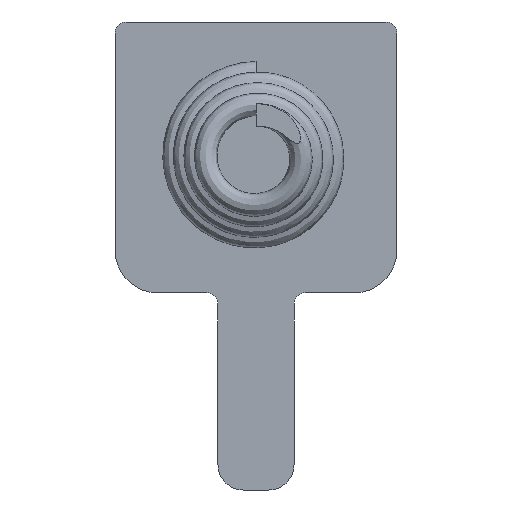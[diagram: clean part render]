
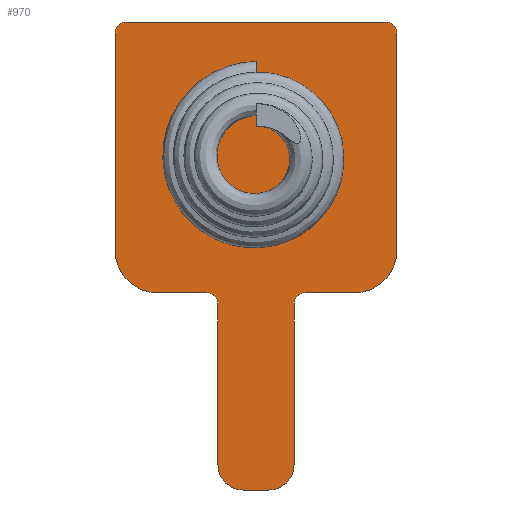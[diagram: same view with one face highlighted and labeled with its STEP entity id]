
A CAD part, front view. The second image highlights one B-rep face of the part: STEP entity #970.
In plain terms, the highlighted planar face has unit normal (0, -1, 0).
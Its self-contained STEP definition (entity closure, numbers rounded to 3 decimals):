
#321=CARTESIAN_POINT('',(-4.6,0.,4.4));
#322=DIRECTION('',(0.,-1.,0.));
#323=DIRECTION('',(0.,0.,1.));
#324=AXIS2_PLACEMENT_3D('',#321,#322,#323);
#326=DIRECTION('',(1.,0.,0.));
#327=VECTOR('',#326,9.2);
#328=CARTESIAN_POINT('',(-4.6,0.,4.8));
#329=LINE('',#328,#327);
#330=CARTESIAN_POINT('',(4.6,0.,4.4));
#331=DIRECTION('',(0.,-1.,0.));
#332=DIRECTION('',(1.,0.,0.));
#333=AXIS2_PLACEMENT_3D('',#330,#331,#332);
#335=DIRECTION('',(0.,0.,-1.));
#336=VECTOR('',#335,7.7);
#337=CARTESIAN_POINT('',(5.,0.,4.4));
#338=LINE('',#337,#336);
#339=CARTESIAN_POINT('',(3.5,0.,-3.3));
#340=DIRECTION('',(0.,-1.,0.));
#341=DIRECTION('',(0.,0.,-1.));
#342=AXIS2_PLACEMENT_3D('',#339,#340,#341);
#344=DIRECTION('',(-1.,0.,0.));
#345=VECTOR('',#344,1.75);
#346=CARTESIAN_POINT('',(3.5,0.,-4.8));
#347=LINE('',#346,#345);
#348=DIRECTION('',(0.,0.,-1.));
#349=VECTOR('',#348,5.7);
#350=CARTESIAN_POINT('',(1.35,0.,-5.2));
#351=LINE('',#350,#349);
#352=CARTESIAN_POINT('',(0.45,0.,-10.9));
#353=DIRECTION('',(0.,-1.,0.));
#354=DIRECTION('',(0.,0.,-1.));
#355=AXIS2_PLACEMENT_3D('',#352,#353,#354);
#357=DIRECTION('',(-1.,0.,0.));
#358=VECTOR('',#357,0.9);
#359=CARTESIAN_POINT('',(0.45,0.,-11.8));
#360=LINE('',#359,#358);
#361=CARTESIAN_POINT('',(-0.45,0.,-10.9));
#362=DIRECTION('',(0.,-1.,0.));
#363=DIRECTION('',(-1.,0.,0.));
#364=AXIS2_PLACEMENT_3D('',#361,#362,#363);
#366=DIRECTION('',(0.,0.,1.));
#367=VECTOR('',#366,5.7);
#368=CARTESIAN_POINT('',(-1.35,0.,-10.9));
#369=LINE('',#368,#367);
#370=DIRECTION('',(-1.,0.,0.));
#371=VECTOR('',#370,1.75);
#372=CARTESIAN_POINT('',(-1.75,0.,-4.8));
#373=LINE('',#372,#371);
#374=CARTESIAN_POINT('',(-3.5,0.,-3.3));
#375=DIRECTION('',(0.,-1.,0.));
#376=DIRECTION('',(-1.,0.,0.));
#377=AXIS2_PLACEMENT_3D('',#374,#375,#376);
#379=DIRECTION('',(0.,0.,1.));
#380=VECTOR('',#379,7.7);
#381=CARTESIAN_POINT('',(-5.,0.,-3.3));
#382=LINE('',#381,#380);
#383=DIRECTION('',(0.,0.,-1.));
#384=VECTOR('',#383,0.8);
#385=CARTESIAN_POINT('',(0.,0.,3.4));
#386=LINE('',#385,#384);
#387=CARTESIAN_POINT('',(0.,0.,3.4));
#388=CARTESIAN_POINT('',(-0.142,0.,3.398));
#389=CARTESIAN_POINT('',(-0.41,0.,3.374));
#390=CARTESIAN_POINT('',(-0.766,0.,3.298));
#391=CARTESIAN_POINT('',(-1.074,0.,3.196));
#392=CARTESIAN_POINT('',(-1.34,0.,3.077));
#393=CARTESIAN_POINT('',(-1.569,0.,2.95));
#394=CARTESIAN_POINT('',(-1.765,0.,2.819));
#395=CARTESIAN_POINT('',(-1.932,0.,2.689));
#396=CARTESIAN_POINT('',(-2.077,0.,2.559));
#397=CARTESIAN_POINT('',(-2.202,0.,2.432));
#398=CARTESIAN_POINT('',(-2.308,0.,2.31));
#399=CARTESIAN_POINT('',(-2.398,0.,2.194));
#400=CARTESIAN_POINT('',(-2.475,0.,2.085));
#401=CARTESIAN_POINT('',(-2.539,0.,1.983));
#402=CARTESIAN_POINT('',(-2.594,0.,1.889));
#403=CARTESIAN_POINT('',(-2.64,0.,1.801));
#404=CARTESIAN_POINT('',(-2.678,0.,1.719));
#405=CARTESIAN_POINT('',(-2.711,0.,1.642));
#406=CARTESIAN_POINT('',(-2.739,0.,1.569));
#407=CARTESIAN_POINT('',(-2.764,0.,1.5));
#408=CARTESIAN_POINT('',(-2.785,0.,1.431));
#409=CARTESIAN_POINT('',(-2.802,0.,1.363));
#410=CARTESIAN_POINT('',(-2.816,0.,1.298));
#411=CARTESIAN_POINT('',(-2.827,0.,1.236));
#412=CARTESIAN_POINT('',(-2.834,0.,1.177));
#413=CARTESIAN_POINT('',(-2.838,0.,1.122));
#414=CARTESIAN_POINT('',(-2.838,0.,1.07));
#415=CARTESIAN_POINT('',(-2.834,0.,1.022));
#416=CARTESIAN_POINT('',(-2.824,0.,0.977));
#417=CARTESIAN_POINT('',(-2.808,0.,0.939));
#418=CARTESIAN_POINT('',(-2.778,0.,0.913));
#419=CARTESIAN_POINT('',(-2.74,0.,0.917));
#420=CARTESIAN_POINT('',(-2.704,0.,0.938));
#421=CARTESIAN_POINT('',(-2.671,0.,0.966));
#422=CARTESIAN_POINT('',(-2.639,0.,0.998));
#423=CARTESIAN_POINT('',(-2.607,0.,1.035));
#424=CARTESIAN_POINT('',(-2.573,0.,1.076));
#425=CARTESIAN_POINT('',(-2.537,0.,1.122));
#426=CARTESIAN_POINT('',(-2.498,0.,1.172));
#427=CARTESIAN_POINT('',(-2.455,0.,1.228));
#428=CARTESIAN_POINT('',(-2.408,0.,1.289));
#429=CARTESIAN_POINT('',(-2.356,0.,1.355));
#430=CARTESIAN_POINT('',(-2.298,0.,1.426));
#431=CARTESIAN_POINT('',(-2.235,0.,1.501));
#432=CARTESIAN_POINT('',(-2.164,0.,1.581));
#433=CARTESIAN_POINT('',(-2.085,0.,1.665));
#434=CARTESIAN_POINT('',(-1.995,0.,1.755));
#435=CARTESIAN_POINT('',(-1.893,0.,1.849));
#436=CARTESIAN_POINT('',(-1.777,0.,1.947));
#437=CARTESIAN_POINT('',(-1.645,0.,2.047));
#438=CARTESIAN_POINT('',(-1.496,0.,2.148));
#439=CARTESIAN_POINT('',(-1.324,0.,2.249));
#440=CARTESIAN_POINT('',(-1.126,0.,2.348));
#441=CARTESIAN_POINT('',(-0.899,0.,2.439));
#442=CARTESIAN_POINT('',(-0.64,0.,2.518));
#443=CARTESIAN_POINT('',(-0.342,0.,2.578));
#444=CARTESIAN_POINT('',(-0.118,0.,2.597));
#445=CARTESIAN_POINT('',(0.,0.,2.6));
#463=CARTESIAN_POINT('',(-1.75,0.,-5.2));
#464=DIRECTION('',(0.,1.,0.));
#465=DIRECTION('',(0.,0.,1.));
#466=AXIS2_PLACEMENT_3D('',#463,#464,#465);
#497=CARTESIAN_POINT('',(1.75,0.,-5.2));
#498=DIRECTION('',(0.,1.,0.));
#499=DIRECTION('',(-1.,0.,0.));
#500=AXIS2_PLACEMENT_3D('',#497,#498,#499);
#853=CARTESIAN_POINT('',(-1.75,0.,-4.8));
#855=VERTEX_POINT('',#853);
#857=CARTESIAN_POINT('',(-1.35,0.,-5.2));
#859=VERTEX_POINT('',#857);
#861=CARTESIAN_POINT('',(1.35,0.,-5.2));
#863=VERTEX_POINT('',#861);
#865=CARTESIAN_POINT('',(1.75,0.,-4.8));
#867=VERTEX_POINT('',#865);
#869=CARTESIAN_POINT('',(-4.6,0.,4.8));
#870=CARTESIAN_POINT('',(-5.,0.,4.4));
#871=VERTEX_POINT('',#869);
#872=VERTEX_POINT('',#870);
#877=CARTESIAN_POINT('',(5.,0.,4.4));
#878=CARTESIAN_POINT('',(4.6,0.,4.8));
#879=VERTEX_POINT('',#877);
#880=VERTEX_POINT('',#878);
#885=CARTESIAN_POINT('',(-5.,0.,-3.3));
#886=CARTESIAN_POINT('',(-3.5,0.,-4.8));
#887=VERTEX_POINT('',#885);
#888=VERTEX_POINT('',#886);
#893=CARTESIAN_POINT('',(3.5,0.,-4.8));
#894=CARTESIAN_POINT('',(5.,0.,-3.3));
#895=VERTEX_POINT('',#893);
#896=VERTEX_POINT('',#894);
#901=CARTESIAN_POINT('',(0.45,0.,-11.8));
#902=CARTESIAN_POINT('',(1.35,0.,-10.9));
#903=VERTEX_POINT('',#901);
#904=VERTEX_POINT('',#902);
#909=CARTESIAN_POINT('',(-1.35,0.,-10.9));
#910=CARTESIAN_POINT('',(-0.45,0.,-11.8));
#911=VERTEX_POINT('',#909);
#912=VERTEX_POINT('',#910);
#917=CARTESIAN_POINT('',(0.,0.,3.4));
#918=CARTESIAN_POINT('',(0.,0.,2.6));
#919=VERTEX_POINT('',#917);
#920=VERTEX_POINT('',#918);
#925=CARTESIAN_POINT('',(0.,0.,0.));
#926=DIRECTION('',(0.,1.,0.));
#927=DIRECTION('',(1.,0.,0.));
#928=AXIS2_PLACEMENT_3D('',#925,#926,#927);
#929=PLANE('',#928);
#931=ORIENTED_EDGE('',*,*,#930,.F.);
#933=ORIENTED_EDGE('',*,*,#932,.T.);
#935=ORIENTED_EDGE('',*,*,#934,.F.);
#937=ORIENTED_EDGE('',*,*,#936,.T.);
#939=ORIENTED_EDGE('',*,*,#938,.F.);
#941=ORIENTED_EDGE('',*,*,#940,.T.);
#943=ORIENTED_EDGE('',*,*,#942,.F.);
#945=ORIENTED_EDGE('',*,*,#944,.T.);
#947=ORIENTED_EDGE('',*,*,#946,.F.);
#949=ORIENTED_EDGE('',*,*,#948,.T.);
#951=ORIENTED_EDGE('',*,*,#950,.F.);
#953=ORIENTED_EDGE('',*,*,#952,.T.);
#955=ORIENTED_EDGE('',*,*,#954,.F.);
#957=ORIENTED_EDGE('',*,*,#956,.T.);
#959=ORIENTED_EDGE('',*,*,#958,.F.);
#961=ORIENTED_EDGE('',*,*,#960,.T.);
#962=EDGE_LOOP('',(#931,#933,#935,#937,#939,#941,#943,#945,#947,#949,#951,#953,
#955,#957,#959,#961));
#963=FACE_OUTER_BOUND('',#962,.F.);
#965=ORIENTED_EDGE('',*,*,#964,.F.);
#967=ORIENTED_EDGE('',*,*,#966,.T.);
#968=EDGE_LOOP('',(#965,#967));
#969=FACE_BOUND('',#968,.F.);
#970=ADVANCED_FACE('',(#963,#969),#929,.F.);
#325=CIRCLE('',#324,0.4);
#334=CIRCLE('',#333,0.4);
#343=CIRCLE('',#342,1.5);
#356=CIRCLE('',#355,0.9);
#365=CIRCLE('',#364,0.9);
#378=CIRCLE('',#377,1.5);
#446=B_SPLINE_CURVE_WITH_KNOTS('',3,(#387,#388,#389,#390,#391,#392,#393,#394,
#395,#396,#397,#398,#399,#400,#401,#402,#403,#404,#405,#406,#407,#408,#409,#410,
#411,#412,#413,#414,#415,#416,#417,#418,#419,#420,#421,#422,#423,#424,#425,#426,
#427,#428,#429,#430,#431,#432,#433,#434,#435,#436,#437,#438,#439,#440,#441,#442,
#443,#444,#445),.UNSPECIFIED.,.F.,.F.,(4,1,1,1,1,1,1,1,1,1,1,1,1,1,1,1,1,1,1,1,
1,1,1,1,1,1,1,1,1,1,1,1,1,1,1,1,1,1,1,1,1,1,1,1,1,1,1,1,1,1,1,1,1,1,1,1,4),
(0.,0.018,0.036,0.054,0.071,
0.089,0.107,0.125,0.143,0.161,
0.179,0.196,0.214,0.232,0.25,
0.268,0.286,0.304,0.321,
0.339,0.357,0.375,0.393,0.411,
0.429,0.446,0.464,0.482,0.5,
0.518,0.536,0.554,0.571,
0.589,0.607,0.625,0.643,0.661,
0.679,0.696,0.714,0.732,0.75,
0.768,0.786,0.804,0.821,
0.839,0.857,0.875,0.893,0.911,
0.929,0.946,0.964,0.982,1.),
.UNSPECIFIED.);
#467=CIRCLE('',#466,0.4);
#501=CIRCLE('',#500,0.4);
#930=EDGE_CURVE('',#871,#872,#325,.T.);
#932=EDGE_CURVE('',#871,#880,#329,.T.);
#934=EDGE_CURVE('',#879,#880,#334,.T.);
#936=EDGE_CURVE('',#879,#896,#338,.T.);
#938=EDGE_CURVE('',#895,#896,#343,.T.);
#940=EDGE_CURVE('',#895,#867,#347,.T.);
#942=EDGE_CURVE('',#863,#867,#501,.T.);
#944=EDGE_CURVE('',#863,#904,#351,.T.);
#946=EDGE_CURVE('',#903,#904,#356,.T.);
#948=EDGE_CURVE('',#903,#912,#360,.T.);
#950=EDGE_CURVE('',#911,#912,#365,.T.);
#952=EDGE_CURVE('',#911,#859,#369,.T.);
#954=EDGE_CURVE('',#855,#859,#467,.T.);
#956=EDGE_CURVE('',#855,#888,#373,.T.);
#958=EDGE_CURVE('',#887,#888,#378,.T.);
#960=EDGE_CURVE('',#887,#872,#382,.T.);
#964=EDGE_CURVE('',#919,#920,#386,.T.);
#966=EDGE_CURVE('',#919,#920,#446,.T.);
